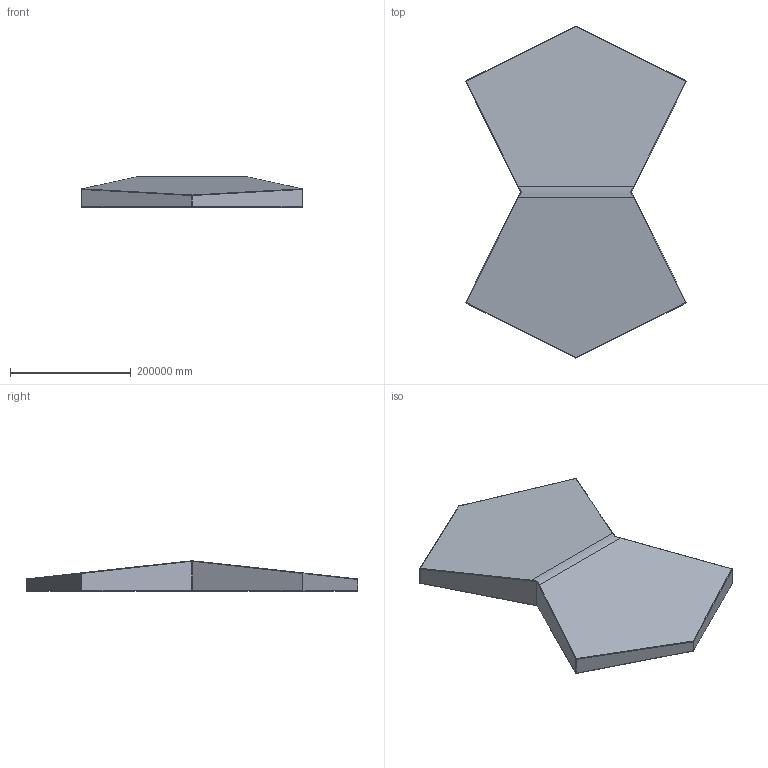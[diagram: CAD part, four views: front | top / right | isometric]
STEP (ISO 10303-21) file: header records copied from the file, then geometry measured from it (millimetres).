
FILE_DESCRIPTION(/* description */ (''),/* implementation_level */ '2;1');
FILE_NAME(/* name */ 'FLUFFO_SOFT_CHAIN_20-50mm',/* time_stamp */ '2018-04-17T23:19:51+02:00',/* author */ (''),/* organization */ (''),/* preprocessor_version */ 'ST-DEVELOPER v15',/* originating_system */ '',/* authorisation */ '');
FILE_SCHEMA (('AUTOMOTIVE_DESIGN'));
Length unit declared in the file: metre
Products named in the file (1): Document
Bounding box: 365978.4 x 549763.93 x 50000 mm (x, y, z)
Volume: 4850901583525492 mm3; surface area: 321877790830.4 mm2
Topology: 1 solids, 1 shells, 56 faces, 120 edges, 66 vertices
Faces by surface type: bspline 48, plane 8
Entity records: 1837 total; most frequent: CARTESIAN_POINT 1153, ORIENTED_EDGE 236, EDGE_CURVE 118, VERTEX_POINT 64, ADVANCED_FACE 56, FACE_OUTER_BOUND 56, EDGE_LOOP 56, B_SPLINE_CURVE_WITH_KNOTS 41
